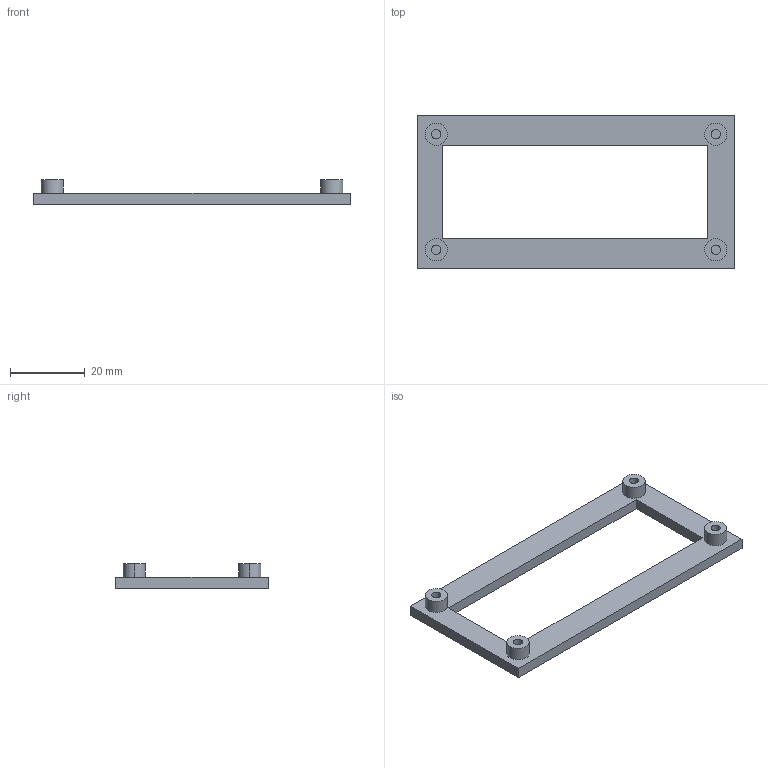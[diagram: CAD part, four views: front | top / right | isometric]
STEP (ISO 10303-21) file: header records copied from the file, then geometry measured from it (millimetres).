
FILE_DESCRIPTION (( 'STEP AP214' ), '1' );
FILE_NAME ('Display_test.STEP', '2025-11-02T22:34:13', ( '' ), ( '' ), 'SwSTEP 2.0', 'SolidWorks 2025', '' );
FILE_SCHEMA (( 'AUTOMOTIVE_DESIGN' ));
Length unit declared in the file: millimetre
Products named in the file (1): Display_test
Bounding box: 85 x 41 x 6.7 mm (x, y, z)
Volume: 5418.1 mm3; surface area: 5111.1 mm2
Topology: 1 solids, 1 shells, 34 faces, 72 edges, 48 vertices
Faces by surface type: plane 18, cylinder 16
Entity records: 955 total; most frequent: DIRECTION 174, CARTESIAN_POINT 155, ORIENTED_EDGE 144, EDGE_CURVE 72, AXIS2_PLACEMENT_3D 67, VERTEX_POINT 48, EDGE_LOOP 44, LINE 40
